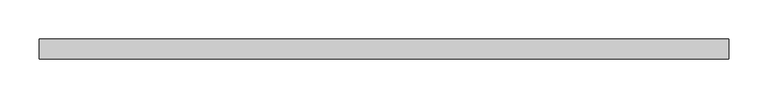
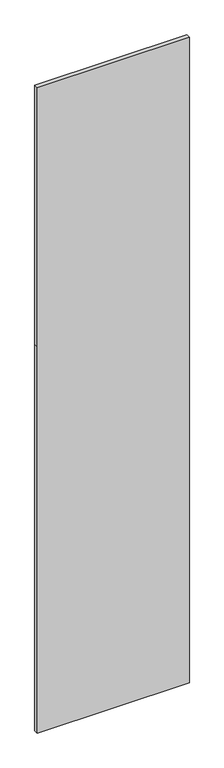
"""IFC4 building model written with IfcOpenShell, lengths in millimetres: plate geometry, Системная панель : ADSK_Cтеклопакет_25."""

from ifc_helpers import new_model, si_unit, frame, origin, place, context, project, spatial, polyline, outline, extrude, source, transform, mapped, element, save


def plate_61407ef3(model_context):
    return source(origin(), model_context, "Body", "SweptSolid", [
        extrude(outline(polyline([(0.0, -437.5), (0.0, 437.5), (2350.0, 437.5), (3925.0, 437.5), (3925.0, -437.5), (2350.0, -437.5), (0.0, -437.5)])), frame((0.0, -12.5, 0.0), z_axis=(0.0, 1.0, 0.0), x_axis=(0.0, 0.0, 1.0)), (0.0, 0.0, 1.0), 25.0),
    ])


if __name__ == "__main__":
    model = new_model("IFC4")
    model_context = context("Model", 3, world=origin())
    ifc_project = project(units=[si_unit("LENGTHUNIT", "METRE", prefix="MILLI")], contexts=[model_context])
    site = spatial("IfcSite", under=ifc_project)
    building = spatial("IfcBuilding", under=site)
    placement = place(None, origin())
    plate_shape = plate_61407ef3(model_context)
    element("IfcPlate", 1, ObjectType="Системная панель : ADSK_Cтеклопакет_25", at=placement, inside=building, context=model_context, shape_type="MappedRepresentation", body=[
        mapped(plate_shape, transform((0.0, 0.0, 0.0), x_axis=(1.0, 0.0, 0.0), y_axis=(0.0, 1.0, 0.0), z_axis=(0.0, 0.0, 1.0))),
    ])
    save(model, "model.ifc")
